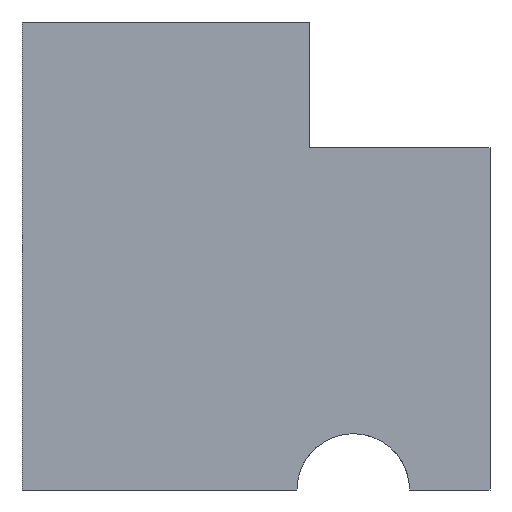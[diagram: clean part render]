
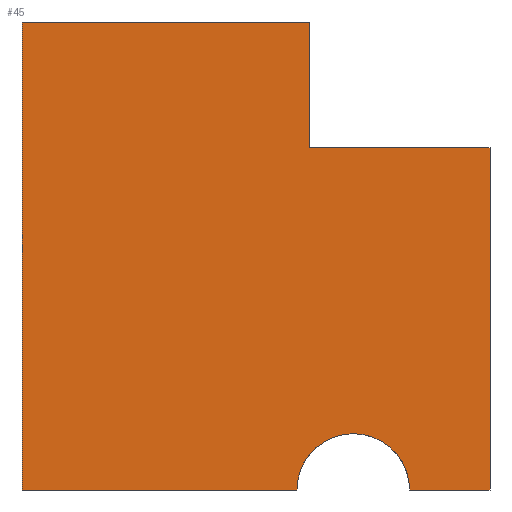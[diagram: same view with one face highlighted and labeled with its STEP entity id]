
A CAD part, left-side view. The second image highlights one B-rep face of the part: STEP entity #45.
In plain terms, the highlighted planar face has unit normal (-1, 0, 0).
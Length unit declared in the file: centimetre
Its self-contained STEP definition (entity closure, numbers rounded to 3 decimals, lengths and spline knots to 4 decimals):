
#15 = CARTESIAN_POINT ( 'NONE',  ( 0., 1000., 1000. ) ) ;
#23 = ORIENTED_EDGE ( 'NONE', *, *, #466, .T. ) ;
#34 = ORIENTED_EDGE ( 'NONE', *, *, #541, .T. ) ;
#35 = AXIS2_PLACEMENT_3D ( 'NONE', #122, #417, #464 ) ;
#45 = ADVANCED_FACE ( 'NONE', ( #407 ), #507, .F. ) ;
#56 = CIRCLE ( 'NONE', #35, 120.4109 ) ;
#83 = EDGE_CURVE ( 'NONE', #573, #302, #365, .T. ) ;
#105 = DIRECTION ( 'NONE',  ( 1., 0., 0. ) ) ;
#109 = VERTEX_POINT ( 'NONE', #254 ) ;
#114 = CARTESIAN_POINT ( 'NONE',  ( 0., 1000., 1000. ) ) ;
#117 = DIRECTION ( 'NONE',  ( 0., -1., 0. ) ) ;
#119 = EDGE_CURVE ( 'NONE', #109, #536, #283, .T. ) ;
#122 = CARTESIAN_POINT ( 'NONE',  ( 0., 292.1276, 0. ) ) ;
#134 = VECTOR ( 'NONE', #574, 100. ) ;
#141 = ORIENTED_EDGE ( 'NONE', *, *, #119, .T. ) ;
#164 = EDGE_CURVE ( 'NONE', #346, #520, #627, .T. ) ;
#167 = DIRECTION ( 'NONE',  ( 0., 0., -1. ) ) ;
#171 = CARTESIAN_POINT ( 'NONE',  ( 0., 385.0875, 731.615 ) ) ;
#185 = DIRECTION ( 'NONE',  ( 0., -1., 0. ) ) ;
#187 = CARTESIAN_POINT ( 'NONE',  ( 0., 1000., 0. ) ) ;
#190 = CARTESIAN_POINT ( 'NONE',  ( 0., 0., 731.615 ) ) ;
#195 = VECTOR ( 'NONE', #517, 100. ) ;
#201 = LINE ( 'NONE', #15, #577 ) ;
#216 = ORIENTED_EDGE ( 'NONE', *, *, #571, .F. ) ;
#254 = CARTESIAN_POINT ( 'NONE',  ( 0., 171.7167, 0. ) ) ;
#264 = CARTESIAN_POINT ( 'NONE',  ( 0., 385.0875, 731.615 ) ) ;
#266 = CARTESIAN_POINT ( 'NONE',  ( 0., 0., 731.615 ) ) ;
#283 = LINE ( 'NONE', #187, #134 ) ;
#302 = VERTEX_POINT ( 'NONE', #595 ) ;
#315 = CARTESIAN_POINT ( 'NONE',  ( 0., 0., 1000. ) ) ;
#316 = VERTEX_POINT ( 'NONE', #190 ) ;
#343 = VECTOR ( 'NONE', #185, 100. ) ;
#344 = ORIENTED_EDGE ( 'NONE', *, *, #83, .F. ) ;
#346 = VERTEX_POINT ( 'NONE', #348 ) ;
#348 = CARTESIAN_POINT ( 'NONE',  ( 0., 1000., 0. ) ) ;
#364 = CARTESIAN_POINT ( 'NONE',  ( 0., 412.5385, 0. ) ) ;
#365 = LINE ( 'NONE', #564, #460 ) ;
#367 = LINE ( 'NONE', #266, #529 ) ;
#394 = EDGE_LOOP ( 'NONE', ( #553, #444, #141, #216, #34, #419, #344, #23 ) ) ;
#407 = FACE_OUTER_BOUND ( 'NONE', #394, .T. ) ;
#415 = DIRECTION ( 'NONE',  ( 0., 0., -1. ) ) ;
#417 = DIRECTION ( 'NONE',  ( 1., 0., 0. ) ) ;
#419 = ORIENTED_EDGE ( 'NONE', *, *, #618, .T. ) ;
#444 = ORIENTED_EDGE ( 'NONE', *, *, #587, .T. ) ;
#460 = VECTOR ( 'NONE', #117, 100. ) ;
#464 = DIRECTION ( 'NONE',  ( 0., 0., -1. ) ) ;
#466 = EDGE_CURVE ( 'NONE', #573, #346, #201, .T. ) ;
#507 = PLANE ( 'NONE',  #611 ) ;
#515 = CARTESIAN_POINT ( 'NONE',  ( 0., 1000., 1000. ) ) ;
#517 = DIRECTION ( 'NONE',  ( 0., 0., 1. ) ) ;
#520 = VERTEX_POINT ( 'NONE', #364 ) ;
#529 = VECTOR ( 'NONE', #572, 100. ) ;
#536 = VERTEX_POINT ( 'NONE', #569 ) ;
#541 = EDGE_CURVE ( 'NONE', #316, #628, #367, .T. ) ;
#544 = DIRECTION ( 'NONE',  ( 0., 0., -1. ) ) ;
#553 = ORIENTED_EDGE ( 'NONE', *, *, #164, .T. ) ;
#562 = LINE ( 'NONE', #315, #613 ) ;
#564 = CARTESIAN_POINT ( 'NONE',  ( 0., 1000., 1000. ) ) ;
#569 = CARTESIAN_POINT ( 'NONE',  ( 0., 0., 0. ) ) ;
#571 = EDGE_CURVE ( 'NONE', #316, #536, #562, .T. ) ;
#572 = DIRECTION ( 'NONE',  ( 0., 1., 0. ) ) ;
#573 = VERTEX_POINT ( 'NONE', #515 ) ;
#574 = DIRECTION ( 'NONE',  ( 0., -1., 0. ) ) ;
#577 = VECTOR ( 'NONE', #544, 100. ) ;
#587 = EDGE_CURVE ( 'NONE', #520, #109, #56, .T. ) ;
#595 = CARTESIAN_POINT ( 'NONE',  ( 0., 385.0875, 1000. ) ) ;
#609 = LINE ( 'NONE', #264, #195 ) ;
#611 = AXIS2_PLACEMENT_3D ( 'NONE', #114, #105, #415 ) ;
#613 = VECTOR ( 'NONE', #167, 100. ) ;
#618 = EDGE_CURVE ( 'NONE', #628, #302, #609, .T. ) ;
#627 = LINE ( 'NONE', #630, #343 ) ;
#628 = VERTEX_POINT ( 'NONE', #171 ) ;
#630 = CARTESIAN_POINT ( 'NONE',  ( 0., 1000., 0. ) ) ;
